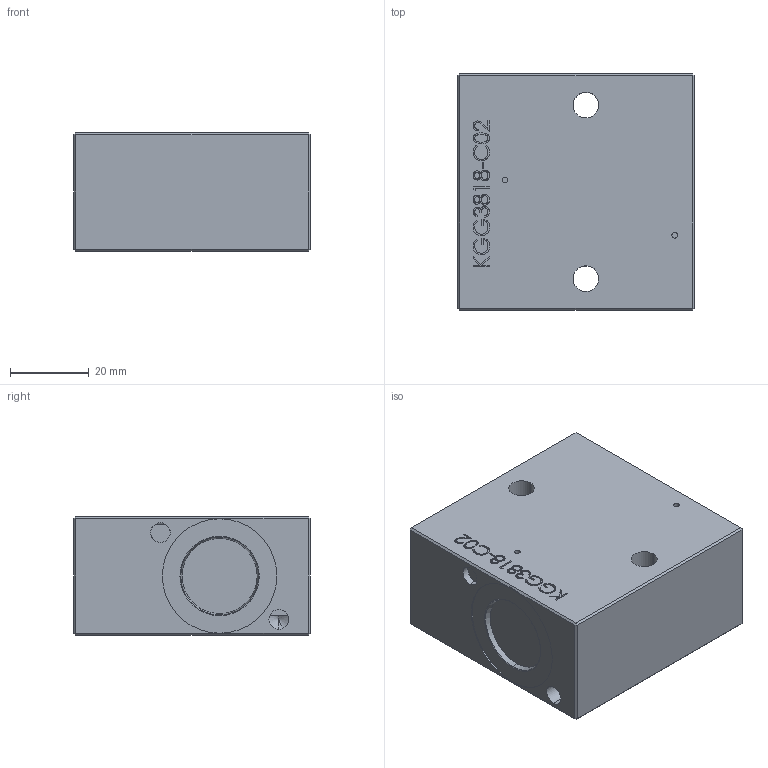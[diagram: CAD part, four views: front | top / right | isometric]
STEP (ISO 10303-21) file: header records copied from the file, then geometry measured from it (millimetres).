
FILE_DESCRIPTION (( 'STEP AP214' ), '1' );
FILE_NAME ('KGG3818-C02.STEP', '2016-11-25T10:37:08', ( '' ), ( '' ), 'SwSTEP 2.0', 'SolidWorks 2014', '' );
FILE_SCHEMA (( 'AUTOMOTIVE_DESIGN' ));
Length unit declared in the file: millimetre
Products named in the file (2): KGG3818-C02
Bounding box: 60 x 60 x 30 mm (x, y, z)
Volume: 104066.4 mm3; surface area: 16108.8 mm2
Topology: 1 solids, 1 shells, 235 faces, 589 edges, 381 vertices
Faces by surface type: plane 109, bspline 96, cylinder 22, cone 6, torus 2
Entity records: 12826 total; most frequent: CARTESIAN_POINT 7697, ORIENTED_EDGE 1174, DIRECTION 729, EDGE_CURVE 587, VERTEX_POINT 381, VECTOR 335, LINE 335, EDGE_LOOP 266
